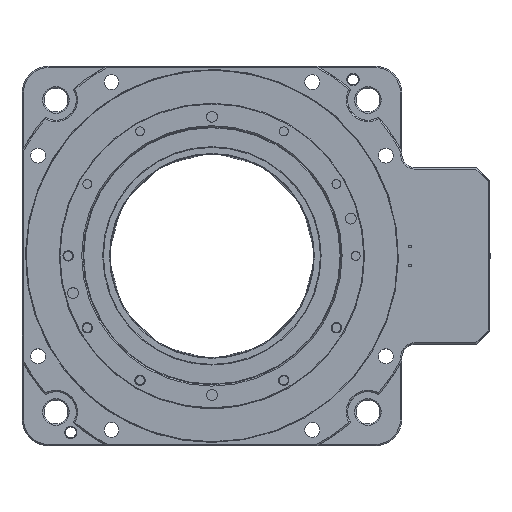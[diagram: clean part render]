
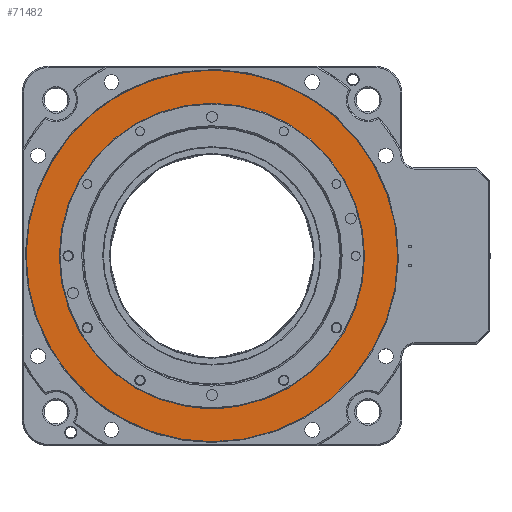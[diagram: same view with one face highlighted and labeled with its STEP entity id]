
A CAD part, top view. The second image highlights one B-rep face of the part: STEP entity #71482.
In plain terms, the highlighted planar face has unit normal (0, 0, 1).
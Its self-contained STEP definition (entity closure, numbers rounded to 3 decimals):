
#965 = CARTESIAN_POINT ( 'NONE',  ( 143.44, 0., -4. ) ) ;
#5728 = EDGE_LOOP ( 'NONE', ( #40667, #47116 ) ) ;
#7214 = DIRECTION ( 'NONE',  ( 0., 0., -1. ) ) ;
#13474 = DIRECTION ( 'NONE',  ( 1., 0., 0. ) ) ;
#14111 = AXIS2_PLACEMENT_3D ( 'NONE', #55535, #18193, #61828 ) ;
#18193 = DIRECTION ( 'NONE',  ( 0., 0., -1. ) ) ;
#18232 = DIRECTION ( 'NONE',  ( 0., 0., -1. ) ) ;
#18906 = CARTESIAN_POINT ( 'NONE',  ( 6.44, 0., -4. ) ) ;
#21715 = CIRCLE ( 'NONE', #48384, 137. ) ;
#25247 = DIRECTION ( 'NONE',  ( 1., 0., 0. ) ) ;
#27753 = ORIENTED_EDGE ( 'NONE', *, *, #70094, .F. ) ;
#30881 = EDGE_CURVE ( 'NONE', #76351, #60751, #65717, .T. ) ;
#30889 = VERTEX_POINT ( 'NONE', #965 ) ;
#31391 = EDGE_LOOP ( 'NONE', ( #32739, #27753 ) ) ;
#32505 = AXIS2_PLACEMENT_3D ( 'NONE', #44711, #7214, #50960 ) ;
#32739 = ORIENTED_EDGE ( 'NONE', *, *, #33346, .F. ) ;
#33346 = EDGE_CURVE ( 'NONE', #30889, #55846, #73718, .T. ) ;
#37159 = FACE_OUTER_BOUND ( 'NONE', #31391, .T. ) ;
#40667 = ORIENTED_EDGE ( 'NONE', *, *, #30881, .T. ) ;
#44711 = CARTESIAN_POINT ( 'NONE',  ( 6.44, 0., -4. ) ) ;
#47116 = ORIENTED_EDGE ( 'NONE', *, *, #61003, .T. ) ;
#48384 = AXIS2_PLACEMENT_3D ( 'NONE', #55586, #18232, #61866 ) ;
#50916 = DIRECTION ( 'NONE',  ( 0., 0., 1. ) ) ;
#50960 = DIRECTION ( 'NONE',  ( 1., 0., 0. ) ) ;
#54059 = AXIS2_PLACEMENT_3D ( 'NONE', #18906, #62539, #25247 ) ;
#55535 = CARTESIAN_POINT ( 'NONE',  ( 6.44, 0., -4. ) ) ;
#55586 = CARTESIAN_POINT ( 'NONE',  ( 6.44, 0., -4. ) ) ;
#55846 = VERTEX_POINT ( 'NONE', #79435 ) ;
#56736 = CIRCLE ( 'NONE', #54059, 112.5 ) ;
#57284 = AXIS2_PLACEMENT_3D ( 'NONE', #58045, #50916, #13474 ) ;
#58045 = CARTESIAN_POINT ( 'NONE',  ( 6.44, -112.5, -4. ) ) ;
#60751 = VERTEX_POINT ( 'NONE', #65082 ) ;
#61003 = EDGE_CURVE ( 'NONE', #60751, #76351, #56736, .T. ) ;
#61828 = DIRECTION ( 'NONE',  ( 1., 0., 0. ) ) ;
#61866 = DIRECTION ( 'NONE',  ( 1., 0., 0. ) ) ;
#62539 = DIRECTION ( 'NONE',  ( 0., 0., -1. ) ) ;
#65082 = CARTESIAN_POINT ( 'NONE',  ( -106.06, 0., -4. ) ) ;
#65717 = CIRCLE ( 'NONE', #32505, 112.5 ) ;
#70094 = EDGE_CURVE ( 'NONE', #55846, #30889, #21715, .T. ) ;
#70556 = PLANE ( 'NONE',  #57284 ) ;
#71482 = ADVANCED_FACE ( 'NONE', ( #37159, #72238 ), #70556, .T. ) ;
#72238 = FACE_BOUND ( 'NONE', #5728, .T. ) ;
#73392 = CARTESIAN_POINT ( 'NONE',  ( 118.94, 0., -4. ) ) ;
#73718 = CIRCLE ( 'NONE', #14111, 137. ) ;
#76351 = VERTEX_POINT ( 'NONE', #73392 ) ;
#79435 = CARTESIAN_POINT ( 'NONE',  ( -130.56, 0., -4. ) ) ;
